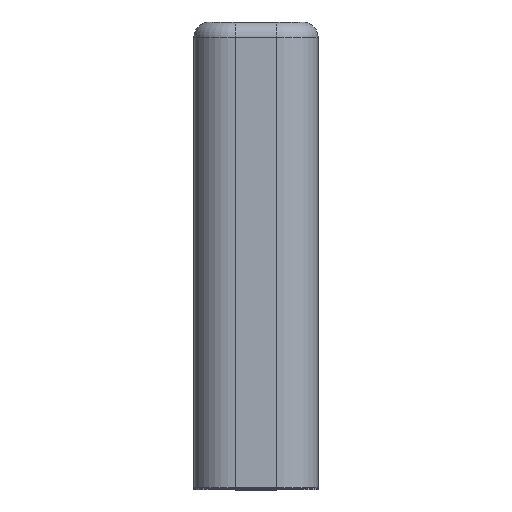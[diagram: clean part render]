
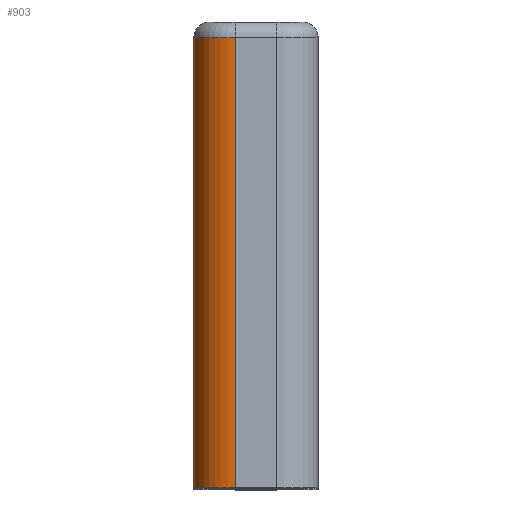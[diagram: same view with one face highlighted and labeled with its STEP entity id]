
A CAD part, top view. The second image highlights one B-rep face of the part: STEP entity #903.
In plain terms, the highlighted cylindrical face has radius 2.667 mm (diameter 5.333 mm), a partial arc.
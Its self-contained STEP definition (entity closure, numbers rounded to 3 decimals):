
#15 = ORIENTED_EDGE ( 'NONE', *, *, #1870, .T. ) ;
#58 = CYLINDRICAL_SURFACE ( 'NONE', #1736, 2.667 ) ;
#83 = LINE ( 'NONE', #1076, #1296 ) ;
#156 = ORIENTED_EDGE ( 'NONE', *, *, #896, .T. ) ;
#232 = ORIENTED_EDGE ( 'NONE', *, *, #1128, .T. ) ;
#262 = CARTESIAN_POINT ( 'NONE',  ( -2.333, 30., -1.333 ) ) ;
#337 = CARTESIAN_POINT ( 'NONE',  ( -5., 0., -1.333 ) ) ;
#428 = CIRCLE ( 'NONE', #2134, 2.667 ) ;
#522 = CIRCLE ( 'NONE', #1801, 2.667 ) ;
#534 = DIRECTION ( 'NONE',  ( 0., -1., 0. ) ) ;
#568 = CARTESIAN_POINT ( 'NONE',  ( -2.333, 0., -1.333 ) ) ;
#591 = CARTESIAN_POINT ( 'NONE',  ( -2.333, 30., -4. ) ) ;
#612 = VECTOR ( 'NONE', #1427, 1000. ) ;
#637 = FACE_OUTER_BOUND ( 'NONE', #1779, .T. ) ;
#640 = VERTEX_POINT ( 'NONE', #1019 ) ;
#672 = CARTESIAN_POINT ( 'NONE',  ( -5., 29., -1.333 ) ) ;
#720 = DIRECTION ( 'NONE',  ( 0., 0., 1. ) ) ;
#790 = CARTESIAN_POINT ( 'NONE',  ( -2.333, 29., -4. ) ) ;
#896 = EDGE_CURVE ( 'NONE', #1073, #640, #1117, .T. ) ;
#900 = DIRECTION ( 'NONE',  ( 0., -1., 0. ) ) ;
#903 = ADVANCED_FACE ( 'NONE', ( #637 ), #58, .T. ) ;
#1019 = CARTESIAN_POINT ( 'NONE',  ( -2.333, 0., -4. ) ) ;
#1073 = VERTEX_POINT ( 'NONE', #790 ) ;
#1076 = CARTESIAN_POINT ( 'NONE',  ( -5., 30., -1.333 ) ) ;
#1117 = LINE ( 'NONE', #591, #612 ) ;
#1128 = EDGE_CURVE ( 'NONE', #1272, #1073, #428, .T. ) ;
#1272 = VERTEX_POINT ( 'NONE', #672 ) ;
#1296 = VECTOR ( 'NONE', #534, 1000. ) ;
#1396 = EDGE_CURVE ( 'NONE', #1272, #2022, #83, .T. ) ;
#1427 = DIRECTION ( 'NONE',  ( 0., -1., 0. ) ) ;
#1494 = DIRECTION ( 'NONE',  ( 0., 0., 1. ) ) ;
#1594 = DIRECTION ( 'NONE',  ( 0., 0., -1. ) ) ;
#1736 = AXIS2_PLACEMENT_3D ( 'NONE', #262, #900, #1594 ) ;
#1756 = DIRECTION ( 'NONE',  ( 0., 1., 0. ) ) ;
#1779 = EDGE_LOOP ( 'NONE', ( #1964, #232, #156, #15 ) ) ;
#1801 = AXIS2_PLACEMENT_3D ( 'NONE', #568, #1756, #720 ) ;
#1870 = EDGE_CURVE ( 'NONE', #640, #2022, #522, .T. ) ;
#1964 = ORIENTED_EDGE ( 'NONE', *, *, #1396, .F. ) ;
#2012 = DIRECTION ( 'NONE',  ( 0., -1., 0. ) ) ;
#2022 = VERTEX_POINT ( 'NONE', #337 ) ;
#2134 = AXIS2_PLACEMENT_3D ( 'NONE', #2177, #2012, #1494 ) ;
#2177 = CARTESIAN_POINT ( 'NONE',  ( -2.333, 29., -1.333 ) ) ;
